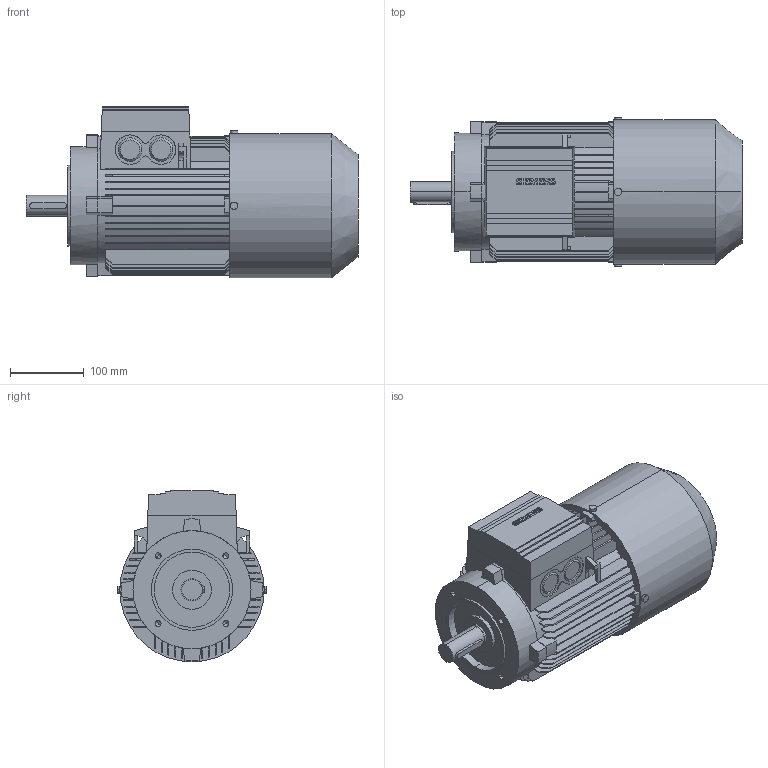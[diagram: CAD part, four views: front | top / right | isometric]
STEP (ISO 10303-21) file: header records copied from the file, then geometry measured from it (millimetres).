
FILE_DESCRIPTION(('no description'),'unknown implementation level');
FILE_NAME('3D_1LA7107-4AA12-Z_G26_25477dafecf46a9cdd56676c34bb9b27.STP',' ',('SIEMENS A&D'),('CADClick - KiM GmbH - www.kimweb.de'),'unknown preprocess','ACIS','unknown authorization');
FILE_SCHEMA(('automotive_design'));
Length unit declared in the file: millimetre
Products named in the file (1): 1
Bounding box: 450 x 203 x 232.75 mm (x, y, z)
Volume: 10244358 mm3; surface area: 518994.5 mm2
Topology: 1 solids, 1 shells, 544 faces, 1537 edges, 1013 vertices
Faces by surface type: plane 284, cylinder 162, cone 98
Entity records: 34828 total; most frequent: CARTESIAN_POINT 3686, STYLED_ITEM 3087, PRESENTATION_STYLE_ASSIGNMENT 3087, COLOUR_RGB 3087, ORIENTED_EDGE 3058, DIRECTION 2938, EDGE_CURVE 1529, CURVE_STYLE 1529
